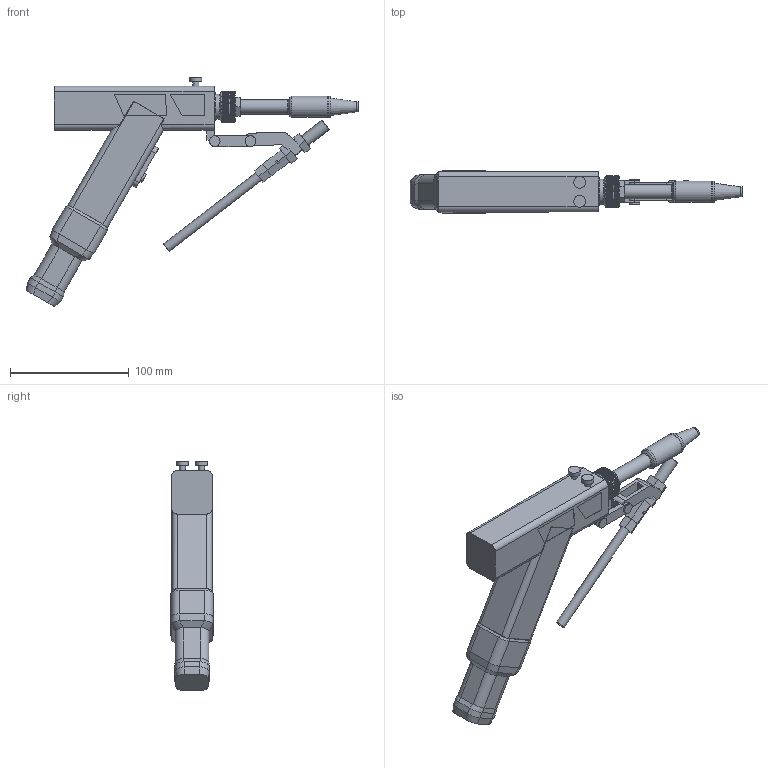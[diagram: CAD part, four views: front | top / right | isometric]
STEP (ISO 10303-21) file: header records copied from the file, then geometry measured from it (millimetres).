
FILE_DESCRIPTION(('Open CASCADE Model'),'2;1');
FILE_NAME('Open CASCADE Shape Model','1970-01-01T00:00:00',('Author'),( 'Open CASCADE'),'Open CASCADE STEP processor 7.8','Open CASCADE 7.8' ,'Unknown');
FILE_SCHEMA(('AUTOMOTIVE_DESIGN { 1 0 10303 214 1 1 1 1 }'));
Length unit declared in the file: millimetre
Products named in the file (17): xlaserlab-sup29f-xh; housing; barrel-neck-and-ring; barrel-hex; barrel-stem; barrel-sleeve; copper-nozzle; wire-feed-bracket; wire-feed-front-nut; wire-feed-rear-nut; wire-feed-coupler; wire-feed-guide-nut; wire-feed-thread-envelope; wire-feed-shank; wire-feed-guide; trigger-clearance; umbilical-boot
Assembly tree (16 placements, depth 2):
  xlaserlab-sup29f-xh
    housing
    barrel-neck-and-ring
    barrel-hex
    barrel-stem
    barrel-sleeve
    copper-nozzle
    wire-feed-bracket
    wire-feed-front-nut
    wire-feed-rear-nut
    wire-feed-coupler
    wire-feed-guide-nut
    wire-feed-thread-envelope
    wire-feed-shank
    wire-feed-guide
    trigger-clearance
    umbilical-boot
Bounding box: 279.27 x 35.8 x 193.27 mm (x, y, z)
Volume: 409033.2 mm3; surface area: 68404.1 mm2
Topology: 16 solids, 16 shells, 630 faces, 1687 edges, 1103 vertices
Faces by surface type: plane 341, cylinder 243, bspline 38, cone 8
Full cylindrical faces by diameter (mm): 3 x2, 5.1 x2, 7.6 x1, 7.9 x1, 8.4 x1, 8.9 x2, 9 x2, 9.9 x1, 10 x2, 10.4 x1, 12.074 x1, 17.899 x1, 17.9 x1, 21.2 x1, 23.8 x1
Entity records: 46136 total; most frequent: CARTESIAN_POINT 14907, DIRECTION 4982, ORIENTED_EDGE 3374, PCURVE 3374, DEFINITIONAL_REPRESENTATION 3374, B_SPLINE_CURVE_WITH_KNOTS 1967, LINE 1900, VECTOR 1900
